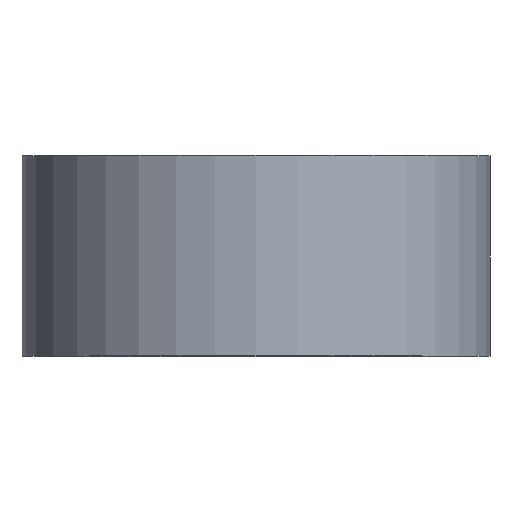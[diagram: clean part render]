
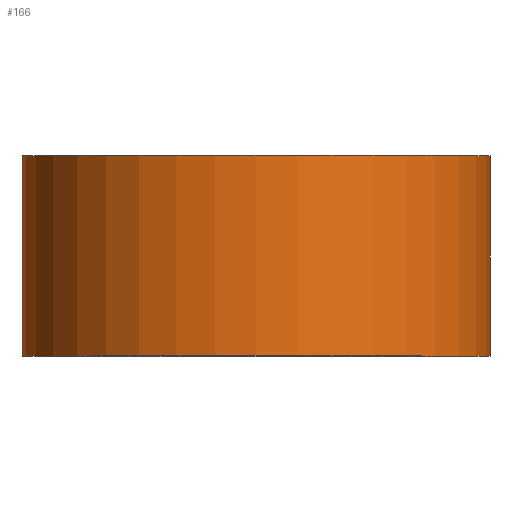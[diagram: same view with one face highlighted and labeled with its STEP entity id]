
A CAD part, top view. The second image highlights one B-rep face of the part: STEP entity #166.
In plain terms, the highlighted cylindrical face has radius 35 mm (diameter 70 mm), a partial arc.
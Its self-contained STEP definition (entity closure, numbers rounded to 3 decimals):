
#7 = LINE ( 'NONE', #279, #252 ) ;
#8 = CARTESIAN_POINT ( 'NONE',  ( 35., 30., 0. ) ) ;
#21 = CIRCLE ( 'NONE', #287, 35. ) ;
#22 = EDGE_CURVE ( 'NONE', #136, #92, #139, .T. ) ;
#26 = ORIENTED_EDGE ( 'NONE', *, *, #22, .T. ) ;
#52 = CARTESIAN_POINT ( 'NONE',  ( -35., 30., 0. ) ) ;
#57 = ORIENTED_EDGE ( 'NONE', *, *, #216, .F. ) ;
#65 = LINE ( 'NONE', #143, #199 ) ;
#69 = EDGE_CURVE ( 'NONE', #136, #76, #7, .T. ) ;
#76 = VERTEX_POINT ( 'NONE', #52 ) ;
#79 = DIRECTION ( 'NONE',  ( 0., 1., 0. ) ) ;
#86 = DIRECTION ( 'NONE',  ( -1., 0., 0. ) ) ;
#92 = VERTEX_POINT ( 'NONE', #186 ) ;
#100 = DIRECTION ( 'NONE',  ( 0., 1., 0. ) ) ;
#111 = DIRECTION ( 'NONE',  ( -1., 0., 0. ) ) ;
#117 = ORIENTED_EDGE ( 'NONE', *, *, #69, .F. ) ;
#136 = VERTEX_POINT ( 'NONE', #142 ) ;
#139 = CIRCLE ( 'NONE', #206, 35. ) ;
#142 = CARTESIAN_POINT ( 'NONE',  ( -35., 0., 0. ) ) ;
#143 = CARTESIAN_POINT ( 'NONE',  ( 35., 0., 0. ) ) ;
#163 = FACE_OUTER_BOUND ( 'NONE', #230, .T. ) ;
#166 = ADVANCED_FACE ( 'NONE', ( #163 ), #295, .T. ) ;
#182 = DIRECTION ( 'NONE',  ( 0., 1., 0. ) ) ;
#186 = CARTESIAN_POINT ( 'NONE',  ( 35., 0., 0. ) ) ;
#194 = CARTESIAN_POINT ( 'NONE',  ( 0., 30., 0. ) ) ;
#198 = EDGE_CURVE ( 'NONE', #92, #245, #65, .T. ) ;
#199 = VECTOR ( 'NONE', #220, 1000. ) ;
#201 = CARTESIAN_POINT ( 'NONE',  ( 0., 0., 0. ) ) ;
#204 = DIRECTION ( 'NONE',  ( 0., 1., 0. ) ) ;
#206 = AXIS2_PLACEMENT_3D ( 'NONE', #201, #182, #111 ) ;
#216 = EDGE_CURVE ( 'NONE', #76, #245, #21, .T. ) ;
#220 = DIRECTION ( 'NONE',  ( 0., 1., 0. ) ) ;
#230 = EDGE_LOOP ( 'NONE', ( #26, #254, #57, #117 ) ) ;
#242 = DIRECTION ( 'NONE',  ( -1., 0., 0. ) ) ;
#244 = CARTESIAN_POINT ( 'NONE',  ( 0., 0., 0. ) ) ;
#245 = VERTEX_POINT ( 'NONE', #8 ) ;
#252 = VECTOR ( 'NONE', #204, 1000. ) ;
#254 = ORIENTED_EDGE ( 'NONE', *, *, #198, .T. ) ;
#271 = AXIS2_PLACEMENT_3D ( 'NONE', #244, #100, #86 ) ;
#279 = CARTESIAN_POINT ( 'NONE',  ( -35., 0., 0. ) ) ;
#287 = AXIS2_PLACEMENT_3D ( 'NONE', #194, #79, #242 ) ;
#295 = CYLINDRICAL_SURFACE ( 'NONE', #271, 35. ) ;
